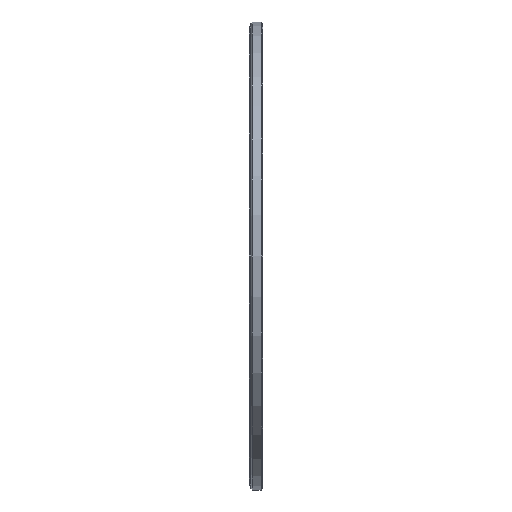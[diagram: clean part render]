
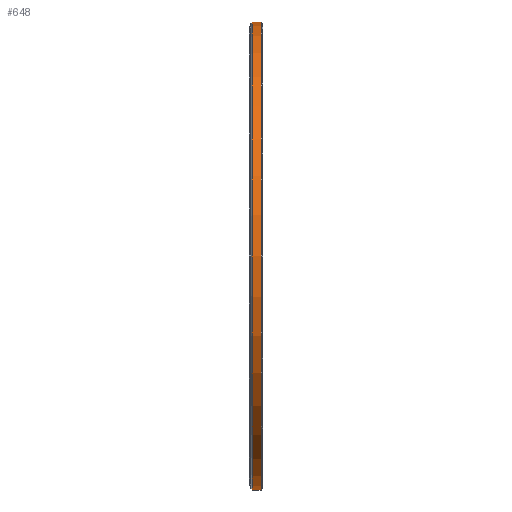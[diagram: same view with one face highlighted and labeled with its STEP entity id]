
A CAD part, left-side view. The second image highlights one B-rep face of the part: STEP entity #648.
In plain terms, the highlighted cylindrical face has radius 80 mm (diameter 160 mm), a partial arc.
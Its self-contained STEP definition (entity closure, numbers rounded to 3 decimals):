
#30 = DIRECTION ( 'NONE',  ( 0., -1., 0. ) ) ;
#574 = FACE_OUTER_BOUND ( 'NONE', #2825, .T. ) ;
#635 = VERTEX_POINT ( 'NONE', #1131 ) ;
#648 = ADVANCED_FACE ( 'NONE', ( #574 ), #2413, .T. ) ;
#708 = CARTESIAN_POINT ( 'NONE',  ( 0., 3.5, 80. ) ) ;
#793 = VERTEX_POINT ( 'NONE', #1042 ) ;
#814 = ORIENTED_EDGE ( 'NONE', *, *, #2352, .T. ) ;
#872 = CIRCLE ( 'NONE', #2708, 80. ) ;
#896 = DIRECTION ( 'NONE',  ( 0., -1., 0. ) ) ;
#1036 = ORIENTED_EDGE ( 'NONE', *, *, #1646, .T. ) ;
#1042 = CARTESIAN_POINT ( 'NONE',  ( 0., 0.5, -80. ) ) ;
#1081 = LINE ( 'NONE', #3039, #2761 ) ;
#1090 = VERTEX_POINT ( 'NONE', #3164 ) ;
#1131 = CARTESIAN_POINT ( 'NONE',  ( 0., 3.5, -80. ) ) ;
#1197 = CARTESIAN_POINT ( 'NONE',  ( 0., 3.5, 0. ) ) ;
#1269 = AXIS2_PLACEMENT_3D ( 'NONE', #4035, #30, #2518 ) ;
#1479 = CIRCLE ( 'NONE', #2904, 80. ) ;
#1613 = VECTOR ( 'NONE', #896, 1000. ) ;
#1646 = EDGE_CURVE ( 'NONE', #635, #793, #1081, .T. ) ;
#1878 = CARTESIAN_POINT ( 'NONE',  ( 0., 4., 80. ) ) ;
#1893 = CARTESIAN_POINT ( 'NONE',  ( 0., 0.5, 0. ) ) ;
#2352 = EDGE_CURVE ( 'NONE', #793, #1090, #1479, .T. ) ;
#2413 = CYLINDRICAL_SURFACE ( 'NONE', #1269, 80. ) ;
#2518 = DIRECTION ( 'NONE',  ( 0., 0., -1. ) ) ;
#2679 = DIRECTION ( 'NONE',  ( 0., 0., 1. ) ) ;
#2708 = AXIS2_PLACEMENT_3D ( 'NONE', #1197, #3005, #2679 ) ;
#2753 = EDGE_CURVE ( 'NONE', #2868, #635, #872, .T. ) ;
#2761 = VECTOR ( 'NONE', #3618, 1000. ) ;
#2825 = EDGE_LOOP ( 'NONE', ( #3828, #3606, #1036, #814 ) ) ;
#2868 = VERTEX_POINT ( 'NONE', #708 ) ;
#2904 = AXIS2_PLACEMENT_3D ( 'NONE', #1893, #3139, #3063 ) ;
#3005 = DIRECTION ( 'NONE',  ( 0., -1., 0. ) ) ;
#3039 = CARTESIAN_POINT ( 'NONE',  ( 0., 4., -80. ) ) ;
#3063 = DIRECTION ( 'NONE',  ( 0., 0., 1. ) ) ;
#3072 = EDGE_CURVE ( 'NONE', #2868, #1090, #3724, .T. ) ;
#3139 = DIRECTION ( 'NONE',  ( 0., 1., 0. ) ) ;
#3164 = CARTESIAN_POINT ( 'NONE',  ( 0., 0.5, 80. ) ) ;
#3606 = ORIENTED_EDGE ( 'NONE', *, *, #2753, .T. ) ;
#3618 = DIRECTION ( 'NONE',  ( 0., -1., 0. ) ) ;
#3724 = LINE ( 'NONE', #1878, #1613 ) ;
#3828 = ORIENTED_EDGE ( 'NONE', *, *, #3072, .F. ) ;
#4035 = CARTESIAN_POINT ( 'NONE',  ( 0., 4., 0. ) ) ;
